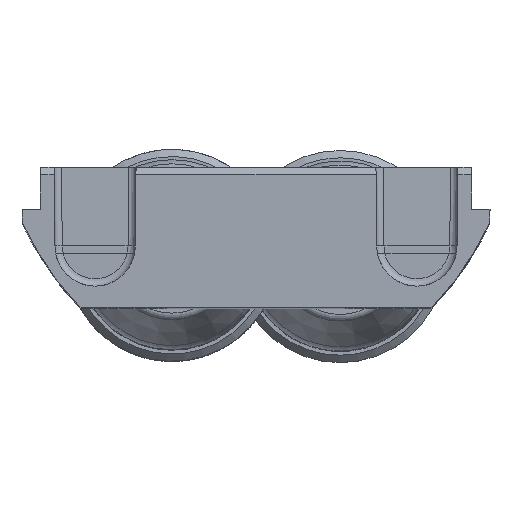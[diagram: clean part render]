
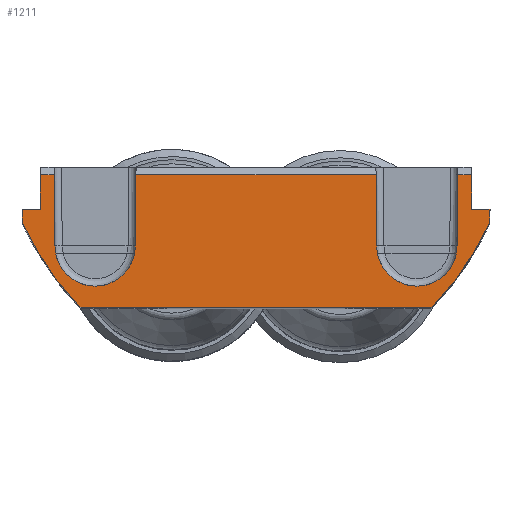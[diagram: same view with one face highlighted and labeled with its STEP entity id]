
A CAD part, top view. The second image highlights one B-rep face of the part: STEP entity #1211.
In plain terms, the highlighted planar face has unit normal (0, 0, 1).
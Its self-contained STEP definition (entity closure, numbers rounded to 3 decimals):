
#1211=ADVANCED_FACE('',(#2080),#1736,.T.);
#1736=PLANE('',#10759);
#2080=FACE_OUTER_BOUND('',#2573,.T.);
#2573=EDGE_LOOP('',(#4656,#4657,#4658,#4659,#4660,#4661,#4662,#4663,#4664,
#4665,#4666,#4667,#4668,#4669,#4670,#4671,#4672,#4673,#4674,#4675,#4676,
#4677));
#3148=CIRCLE('',#10546,0.5);
#3149=CIRCLE('',#10550,0.5);
#3150=CIRCLE('',#10554,0.5);
#3151=CIRCLE('',#10556,0.5);
#3152=CIRCLE('',#10578,2.75);
#3153=CIRCLE('',#10581,2.75);
#3198=CIRCLE('',#10752,20.);
#3199=CIRCLE('',#10756,20.);
#4656=ORIENTED_EDGE('',*,*,#8181,.F.);
#4657=ORIENTED_EDGE('',*,*,#7767,.T.);
#4658=ORIENTED_EDGE('',*,*,#7891,.F.);
#4659=ORIENTED_EDGE('',*,*,#7897,.F.);
#4660=ORIENTED_EDGE('',*,*,#7895,.F.);
#4661=ORIENTED_EDGE('',*,*,#7763,.T.);
#4662=ORIENTED_EDGE('',*,*,#7905,.T.);
#4663=ORIENTED_EDGE('',*,*,#7902,.T.);
#4664=ORIENTED_EDGE('',*,*,#7899,.T.);
#4665=ORIENTED_EDGE('',*,*,#7759,.T.);
#4666=ORIENTED_EDGE('',*,*,#8182,.F.);
#4667=ORIENTED_EDGE('',*,*,#8183,.F.);
#4668=ORIENTED_EDGE('',*,*,#7884,.F.);
#4669=ORIENTED_EDGE('',*,*,#7829,.T.);
#4670=ORIENTED_EDGE('',*,*,#8175,.T.);
#4671=ORIENTED_EDGE('',*,*,#7836,.T.);
#4672=ORIENTED_EDGE('',*,*,#8180,.F.);
#4673=ORIENTED_EDGE('',*,*,#7842,.T.);
#4674=ORIENTED_EDGE('',*,*,#8178,.T.);
#4675=ORIENTED_EDGE('',*,*,#7843,.T.);
#4676=ORIENTED_EDGE('',*,*,#7886,.F.);
#4677=ORIENTED_EDGE('',*,*,#8184,.F.);
#6690=VERTEX_POINT('',#14810);
#6692=VERTEX_POINT('',#14814);
#6694=VERTEX_POINT('',#14819);
#6696=VERTEX_POINT('',#14823);
#6698=VERTEX_POINT('',#14828);
#6700=VERTEX_POINT('',#14832);
#6741=VERTEX_POINT('',#15260);
#6742=VERTEX_POINT('',#15262);
#6745=VERTEX_POINT('',#15272);
#6746=VERTEX_POINT('',#15274);
#6749=VERTEX_POINT('',#15284);
#6750=VERTEX_POINT('',#15286);
#6751=VERTEX_POINT('',#15290);
#6752=VERTEX_POINT('',#15291);
#6788=VERTEX_POINT('',#15531);
#6789=VERTEX_POINT('',#15535);
#6791=VERTEX_POINT('',#15544);
#6792=VERTEX_POINT('',#15550);
#6793=VERTEX_POINT('',#15557);
#6794=VERTEX_POINT('',#15561);
#6954=VERTEX_POINT('',#16181);
#6955=VERTEX_POINT('',#16183);
#7759=EDGE_CURVE('',#6690,#6692,#9187,.T.);
#7763=EDGE_CURVE('',#6694,#6696,#9191,.T.);
#7767=EDGE_CURVE('',#6698,#6700,#9195,.T.);
#7829=EDGE_CURVE('',#6742,#6741,#3148,.T.);
#7836=EDGE_CURVE('',#6745,#6746,#3149,.T.);
#7842=EDGE_CURVE('',#6749,#6750,#3150,.T.);
#7843=EDGE_CURVE('',#6751,#6752,#3151,.T.);
#7884=EDGE_CURVE('',#6742,#6788,#9237,.T.);
#7886=EDGE_CURVE('',#6789,#6752,#9239,.T.);
#7891=EDGE_CURVE('',#6791,#6700,#9244,.T.);
#7895=EDGE_CURVE('',#6694,#6792,#9248,.T.);
#7897=EDGE_CURVE('',#6792,#6791,#3152,.T.);
#7899=EDGE_CURVE('',#6793,#6690,#9251,.T.);
#7902=EDGE_CURVE('',#6794,#6793,#3153,.T.);
#7905=EDGE_CURVE('',#6696,#6794,#9256,.T.);
#8175=EDGE_CURVE('',#6741,#6745,#3198,.T.);
#8178=EDGE_CURVE('',#6750,#6751,#3199,.T.);
#8180=EDGE_CURVE('',#6749,#6746,#9444,.T.);
#8181=EDGE_CURVE('',#6698,#6954,#9445,.T.);
#8182=EDGE_CURVE('',#6955,#6692,#9446,.T.);
#8183=EDGE_CURVE('',#6788,#6955,#9447,.T.);
#8184=EDGE_CURVE('',#6954,#6789,#9448,.T.);
#9187=LINE('',#14815,#9870);
#9191=LINE('',#14824,#9874);
#9195=LINE('',#14833,#9878);
#9237=LINE('',#15530,#9920);
#9239=LINE('',#15534,#9922);
#9244=LINE('',#15543,#9927);
#9248=LINE('',#15549,#9931);
#9251=LINE('',#15556,#9934);
#9256=LINE('',#15567,#9939);
#9444=LINE('',#16178,#10127);
#9445=LINE('',#16180,#10128);
#9446=LINE('',#16182,#10129);
#9447=LINE('',#16184,#10130);
#9448=LINE('',#16185,#10131);
#9870=VECTOR('',#11856,1.);
#9874=VECTOR('',#11862,1.);
#9878=VECTOR('',#11868,1.);
#9920=VECTOR('',#12062,1.);
#9922=VECTOR('',#12066,1.);
#9927=VECTOR('',#12075,1.);
#9931=VECTOR('',#12081,1.);
#9934=VECTOR('',#12090,1.);
#9939=VECTOR('',#12103,1.);
#10127=VECTOR('',#12639,1.);
#10128=VECTOR('',#12642,1.);
#10129=VECTOR('',#12643,1.);
#10130=VECTOR('',#12644,1.);
#10131=VECTOR('',#12645,1.);
#10546=AXIS2_PLACEMENT_3D('',#15261,#11972,#11973);
#10550=AXIS2_PLACEMENT_3D('',#15275,#11985,#11986);
#10554=AXIS2_PLACEMENT_3D('',#15287,#11997,#11998);
#10556=AXIS2_PLACEMENT_3D('',#15289,#12001,#12002);
#10578=AXIS2_PLACEMENT_3D('',#15553,#12085,#12086);
#10581=AXIS2_PLACEMENT_3D('',#15562,#12095,#12096);
#10752=AXIS2_PLACEMENT_3D('',#16171,#12626,#12627);
#10756=AXIS2_PLACEMENT_3D('',#16175,#12634,#12635);
#10759=AXIS2_PLACEMENT_3D('',#16186,#12646,#12647);
#11856=DIRECTION('',(-1.,0.,0.));
#11862=DIRECTION('',(-1.,0.,0.));
#11868=DIRECTION('',(-1.,0.,0.));
#11972=DIRECTION('',(0.,0.,1.));
#11973=DIRECTION('',(1.,0.,0.));
#11985=DIRECTION('',(0.,0.,1.));
#11986=DIRECTION('',(1.,0.,0.));
#11997=DIRECTION('',(0.,0.,1.));
#11998=DIRECTION('',(1.,0.,0.));
#12001=DIRECTION('',(0.,0.,1.));
#12002=DIRECTION('',(1.,0.,0.));
#12062=DIRECTION('',(-0.009,1.,0.));
#12066=DIRECTION('',(-0.009,-1.,0.));
#12075=DIRECTION('',(0.009,1.,0.));
#12081=DIRECTION('',(0.009,-1.,0.));
#12085=DIRECTION('',(0.,0.,1.));
#12086=DIRECTION('',(1.,0.,0.));
#12090=DIRECTION('',(-0.009,1.,0.));
#12095=DIRECTION('',(0.,0.,-1.));
#12096=DIRECTION('',(1.,0.,0.));
#12103=DIRECTION('',(-0.009,-1.,0.));
#12626=DIRECTION('',(0.,0.,1.));
#12627=DIRECTION('',(-1.,0.,0.));
#12634=DIRECTION('',(0.,0.,1.));
#12635=DIRECTION('',(1.,0.,0.));
#12639=DIRECTION('',(-1.,0.,0.));
#12642=DIRECTION('',(0.009,-1.,0.));
#12643=DIRECTION('',(0.009,1.,0.));
#12644=DIRECTION('',(1.,0.,0.));
#12645=DIRECTION('',(1.,0.,0.));
#12646=DIRECTION('',(0.,0.,1.));
#12647=DIRECTION('',(1.,0.,0.));
#14810=CARTESIAN_POINT('',(-13.793,9.125,-3.625));
#14814=CARTESIAN_POINT('',(-14.729,9.125,-3.625));
#14815=CARTESIAN_POINT('',(-2.263,9.125,-3.625));
#14819=CARTESIAN_POINT('',(8.207,9.125,-3.625));
#14823=CARTESIAN_POINT('',(-8.207,9.125,-3.625));
#14824=CARTESIAN_POINT('',(-2.263,9.125,-3.625));
#14828=CARTESIAN_POINT('',(14.729,9.125,-3.625));
#14832=CARTESIAN_POINT('',(13.793,9.125,-3.625));
#14833=CARTESIAN_POINT('',(-2.263,9.125,-3.625));
#15260=CARTESIAN_POINT('',(-15.949,5.805,-3.625));
#15261=CARTESIAN_POINT('',(-15.494,6.011,-3.625));
#15262=CARTESIAN_POINT('',(-15.994,6.007,-3.625));
#15272=CARTESIAN_POINT('',(-12.124,0.178,-3.625));
#15274=CARTESIAN_POINT('',(-11.764,0.025,-3.625));
#15275=CARTESIAN_POINT('',(-11.764,0.525,-3.625));
#15284=CARTESIAN_POINT('',(11.764,0.025,-3.625));
#15286=CARTESIAN_POINT('',(12.124,0.178,-3.625));
#15287=CARTESIAN_POINT('',(11.764,0.525,-3.625));
#15289=CARTESIAN_POINT('',(15.494,6.011,-3.625));
#15290=CARTESIAN_POINT('',(15.949,5.805,-3.625));
#15291=CARTESIAN_POINT('',(15.994,6.007,-3.625));
#15530=CARTESIAN_POINT('',(-16.063,13.951,-3.625));
#15531=CARTESIAN_POINT('',(-16.,6.75,-3.625));
#15534=CARTESIAN_POINT('',(16.062,13.911,-3.625));
#15535=CARTESIAN_POINT('',(16.,6.75,-3.625));
#15543=CARTESIAN_POINT('',(13.75,4.25,-3.625));
#15544=CARTESIAN_POINT('',(13.75,4.25,-3.625));
#15549=CARTESIAN_POINT('',(8.25,4.25,-3.625));
#15550=CARTESIAN_POINT('',(8.25,4.25,-3.625));
#15553=CARTESIAN_POINT('',(11.,4.25,-3.625));
#15556=CARTESIAN_POINT('',(-13.75,4.25,-3.625));
#15557=CARTESIAN_POINT('',(-13.75,4.25,-3.625));
#15561=CARTESIAN_POINT('',(-8.25,4.25,-3.625));
#15562=CARTESIAN_POINT('',(-11.,4.25,-3.625));
#15567=CARTESIAN_POINT('',(-8.25,4.25,-3.625));
#16171=CARTESIAN_POINT('',(2.263,14.071,-3.625));
#16175=CARTESIAN_POINT('',(-2.263,14.071,-3.625));
#16178=CARTESIAN_POINT('',(-11.95,0.025,-3.625));
#16180=CARTESIAN_POINT('',(14.685,14.219,-3.625));
#16181=CARTESIAN_POINT('',(14.75,6.75,-3.625));
#16182=CARTESIAN_POINT('',(-14.685,14.18,-3.625));
#16183=CARTESIAN_POINT('',(-14.75,6.75,-3.625));
#16184=CARTESIAN_POINT('',(-2.263,6.75,-3.625));
#16185=CARTESIAN_POINT('',(-2.263,6.75,-3.625));
#16186=CARTESIAN_POINT('',(-2.263,14.071,-3.625));
